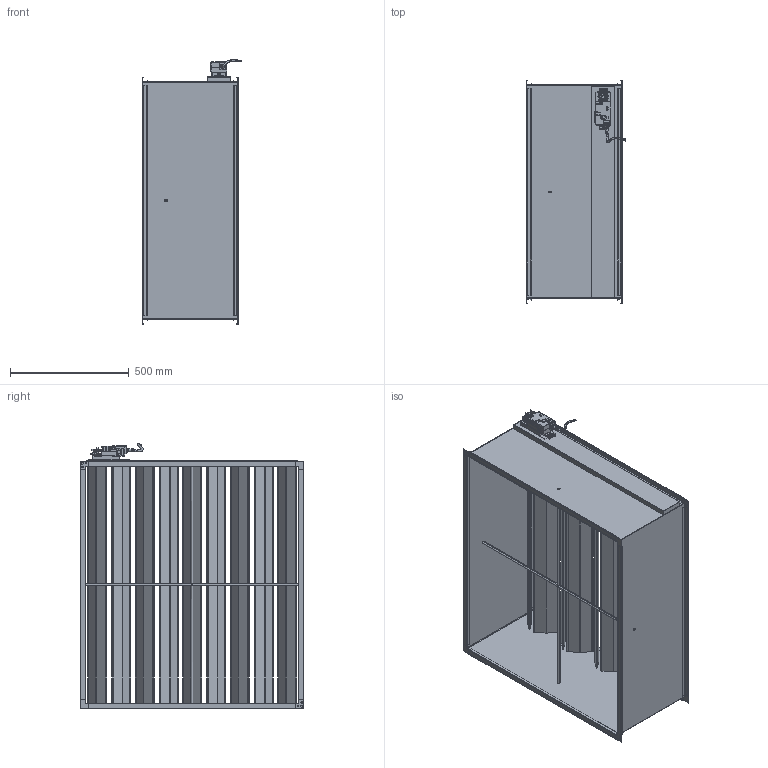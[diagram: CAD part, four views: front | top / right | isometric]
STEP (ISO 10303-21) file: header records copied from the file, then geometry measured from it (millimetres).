
FILE_DESCRIPTION (( 'STEP AP214' ), '1' );
FILE_NAME ('VAV-S1000900.STEP', '2025-05-08T12:32:19', ( '' ), ( '' ), 'SwSTEP 2.0', 'SolidWorks 2025', '' );
FILE_SCHEMA (( 'AUTOMOTIVE_DESIGN' ));
Length unit declared in the file: millimetre
Products named in the file (1): VAV-S1000900
Bounding box: 419.8 x 941 x 1113.68 mm (x, y, z)
Surface area: 6655896.7 mm2 (no closed solid volume)
Topology: 0 solids, 48 shells, 2162 faces, 5679 edges, 3621 vertices
Faces by surface type: plane 1571, cylinder 538, bspline 24, sphere 18, cone 10, torus 1
Full cylindrical faces by diameter (mm): 1 x4, 6 x9, 8 x1, 9 x4, 11 x1, 20 x1, 21 x2
Entity records: 94156 total; most frequent: CARTESIAN_POINT 42018, ORIENTED_EDGE 11161, DIRECTION 7332, EDGE_CURVE 5604, VERTEX_POINT 3593, B_SPLINE_CURVE_WITH_KNOTS 3170, AXIS2_PLACEMENT_3D 2771, EDGE_LOOP 2340
